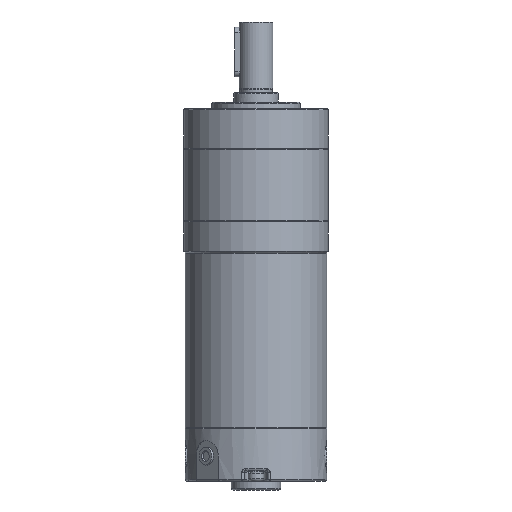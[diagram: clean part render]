
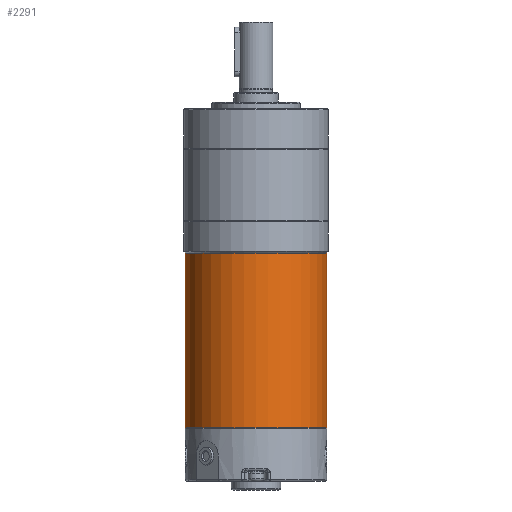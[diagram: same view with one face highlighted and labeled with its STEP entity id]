
A CAD part, front view. The second image highlights one B-rep face of the part: STEP entity #2291.
In plain terms, the highlighted cylindrical face has radius 40 mm (diameter 80 mm), a partial arc.
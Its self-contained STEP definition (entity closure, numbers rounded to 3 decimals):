
#360 = DIRECTION ( 'NONE',  ( -1., 0., 0. ) ) ;
#401 = CYLINDRICAL_SURFACE ( 'NONE', #9056, 40. ) ;
#930 = DIRECTION ( 'NONE',  ( 0., 0., -1. ) ) ;
#1030 = LINE ( 'NONE', #7446, #8666 ) ;
#1269 = ORIENTED_EDGE ( 'NONE', *, *, #5025, .T. ) ;
#1281 = AXIS2_PLACEMENT_3D ( 'NONE', #5883, #930, #7303 ) ;
#1316 = EDGE_LOOP ( 'NONE', ( #6124, #3301, #1269, #2708 ) ) ;
#2113 = LINE ( 'NONE', #4377, #5733 ) ;
#2291 = ADVANCED_FACE ( 'NONE', ( #6089 ), #401, .T. ) ;
#2355 = CIRCLE ( 'NONE', #4433, 40. ) ;
#2387 = VERTEX_POINT ( 'NONE', #7553 ) ;
#2444 = DIRECTION ( 'NONE',  ( 1., 0., 0. ) ) ;
#2708 = ORIENTED_EDGE ( 'NONE', *, *, #8223, .T. ) ;
#3141 = CARTESIAN_POINT ( 'NONE',  ( 0., 0., -11.2 ) ) ;
#3157 = DIRECTION ( 'NONE',  ( 0., 0., 1. ) ) ;
#3301 = ORIENTED_EDGE ( 'NONE', *, *, #5675, .T. ) ;
#3772 = CARTESIAN_POINT ( 'NONE',  ( -40., 0., 87.5 ) ) ;
#4107 = CIRCLE ( 'NONE', #1281, 40. ) ;
#4259 = CARTESIAN_POINT ( 'NONE',  ( 40., 0., -11.2 ) ) ;
#4377 = CARTESIAN_POINT ( 'NONE',  ( -40., 0., -11.5 ) ) ;
#4433 = AXIS2_PLACEMENT_3D ( 'NONE', #3141, #5960, #360 ) ;
#4935 = DIRECTION ( 'NONE',  ( 0., 0., 1. ) ) ;
#5025 = EDGE_CURVE ( 'NONE', #7367, #5216, #1030, .T. ) ;
#5215 = CARTESIAN_POINT ( 'NONE',  ( 0., 0., -11.5 ) ) ;
#5216 = VERTEX_POINT ( 'NONE', #8908 ) ;
#5675 = EDGE_CURVE ( 'NONE', #2387, #7367, #2355, .T. ) ;
#5733 = VECTOR ( 'NONE', #4935, 1000. ) ;
#5883 = CARTESIAN_POINT ( 'NONE',  ( 0., 0., 87.5 ) ) ;
#5960 = DIRECTION ( 'NONE',  ( 0., 0., 1. ) ) ;
#6089 = FACE_OUTER_BOUND ( 'NONE', #1316, .T. ) ;
#6124 = ORIENTED_EDGE ( 'NONE', *, *, #8797, .F. ) ;
#7303 = DIRECTION ( 'NONE',  ( -1., 0., 0. ) ) ;
#7367 = VERTEX_POINT ( 'NONE', #4259 ) ;
#7446 = CARTESIAN_POINT ( 'NONE',  ( 40., 0., -11.5 ) ) ;
#7553 = CARTESIAN_POINT ( 'NONE',  ( -40., 0., -11.2 ) ) ;
#7735 = VERTEX_POINT ( 'NONE', #3772 ) ;
#8223 = EDGE_CURVE ( 'NONE', #5216, #7735, #4107, .T. ) ;
#8666 = VECTOR ( 'NONE', #3157, 1000. ) ;
#8751 = DIRECTION ( 'NONE',  ( 0., 0., 1. ) ) ;
#8797 = EDGE_CURVE ( 'NONE', #2387, #7735, #2113, .T. ) ;
#8908 = CARTESIAN_POINT ( 'NONE',  ( 40., 0., 87.5 ) ) ;
#9056 = AXIS2_PLACEMENT_3D ( 'NONE', #5215, #8751, #2444 ) ;
